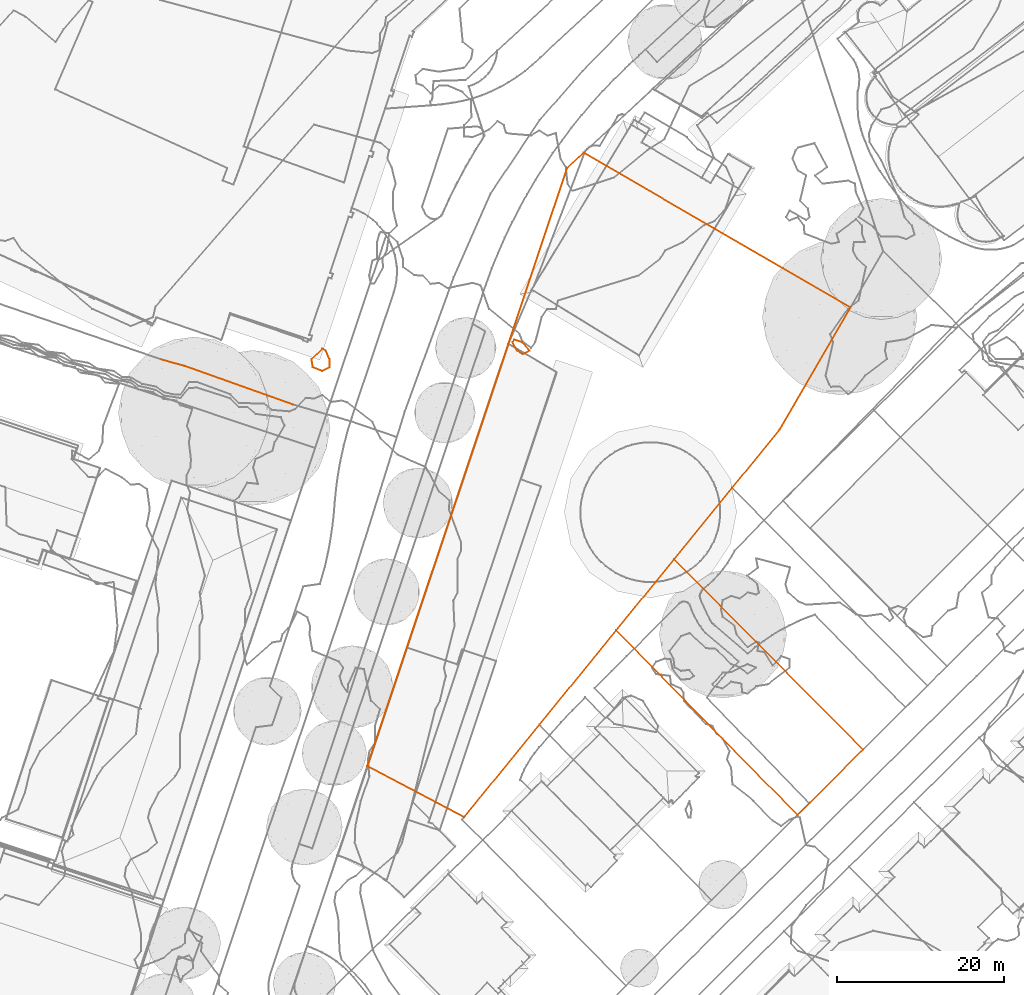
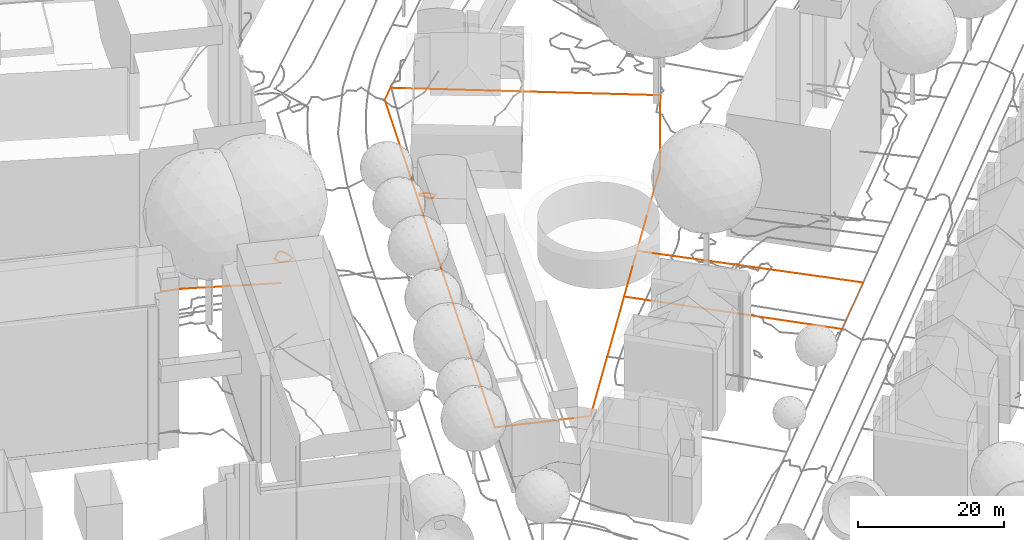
# Not in any storey, part 100 of 494: 6 proxies.
"""IFC2X3 model written with IfcOpenShell, lengths in metres."""

from ifc_helpers import new_model, entity, si_unit, frame, origin_with_axes, place, context, subcontext, project, element, save


model = new_model("IFC2X3")

# Units and contexts
model_context = context("Model", 3, precision=1e-05, world=origin_with_axes())
body_context = subcontext(model_context, "Body", "Model", "MODEL_VIEW")
ifc_project = project(units=[si_unit("AREAUNIT", "SQUARE_METRE"), si_unit("LENGTHUNIT", "METRE")], contexts=[model_context])

# Proxies
proxy_1_placement = place(None, frame((54.1807320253, 192.3257372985, 532.854), z_axis=(0.0, 0.0, 1.0), x_axis=(1.0, 0.0, 0.0)))
element("IfcBuildingElementProxy", 1, at=proxy_1_placement, Name="Road 155", ObjectType="NOTDEFINED", context=body_context, shape_type="GeometricCurveSet", body=[
    entity("IfcGeometricCurveSet", [entity("IfcPolyline", [entity("IfcCartesianPoint", [0.0, 0.0, 0.0]), entity("IfcCartesianPoint", [12.9640000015, -4.6299998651, -0.793])])]),
])
proxy_2_placement = place(None, frame((51.2697320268, 193.1197372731, 532.885), z_axis=(0.0, 0.0, 1.0), x_axis=(1.0, 0.0, 0.0)))
element("IfcBuildingElementProxy", 2, at=proxy_2_placement, Name="Road 156", ObjectType="NOTDEFINED", context=body_context, shape_type="GeometricCurveSet", body=[
    entity("IfcGeometricCurveSet", [entity("IfcPolyline", [entity("IfcCartesianPoint", [0.0, 0.0, 0.0]), entity("IfcCartesianPoint", [2.9109999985, -0.7939999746, -0.031])])]),
])
proxy_3_placement = place(None, frame((76.0587320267, 144.3647160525, 531.0605458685), z_axis=(0.0, 0.0, 1.0), x_axis=(1.0, 0.0, 0.0)))
element("IfcBuildingElementProxy", 3, at=proxy_3_placement, Name="Cadastre 89", ObjectType="NOTDEFINED", context=body_context, shape_type="GeometricCurveSet", body=[
    entity("IfcGeometricCurveSet", [entity("IfcPolyline", [entity("IfcCartesianPoint", [0.0, 0.0, 0.0]), entity("IfcCartesianPoint", [23.9619999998, 71.7019999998, 2.9849385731]), entity("IfcCartesianPoint", [25.9300000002, 73.5199999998, 3.1794816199]), entity("IfcCartesianPoint", [57.9160000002, 54.9519999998, 1.9941676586]), entity("IfcCartesianPoint", [49.4360000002, 40.348, 1.5693953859]), entity("IfcCartesianPoint", [43.7459999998, 33.3559999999, 1.5828651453]), entity("IfcCartesianPoint", [36.7960000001, 24.8139999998, 1.6217931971]), entity("IfcCartesianPoint", [29.8560000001, 16.291, 1.5617126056]), entity("IfcCartesianPoint", [20.6359999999, 4.9679999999, 1.5827499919]), entity("IfcCartesianPoint", [11.6069999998, -6.125, 1.5508897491]), entity("IfcCartesianPoint", [0.0, 0.0, 0.0])])]),
])
proxy_4_placement = place(None, frame((105.9147320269, 160.6557160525, 532.6222584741), z_axis=(0.0, 0.0, 1.0), x_axis=(1.0, 0.0, 0.0)))
element("IfcBuildingElementProxy", 4, at=proxy_4_placement, Name="Cadastre 97", ObjectType="NOTDEFINED", context=body_context, shape_type="GeometricCurveSet", body=[
    entity("IfcGeometricCurveSet", [entity("IfcPolyline", [entity("IfcCartesianPoint", [0.0, 0.0, 0.0]), entity("IfcCartesianPoint", [6.9399999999, 8.5229999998, 0.0600805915]), entity("IfcCartesianPoint", [29.605, -14.2880000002, 0.654844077]), entity("IfcCartesianPoint", [21.7249999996, -22.1300000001, 0.3821062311]), entity("IfcCartesianPoint", [0.0, 0.0, 0.0])])]),
])
proxy_5_placement = place(None, frame((93.460152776, 195.1707160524, 533.0), z_axis=(0.0, 0.0, 1.0), x_axis=(1.0, 0.0, 0.0)))
element("IfcBuildingElementProxy", 5, at=proxy_5_placement, Name="Contour Line 533.0 m", ObjectType="NOTDEFINED", context=body_context, shape_type="GeometricCurveSet", body=[
    entity("IfcGeometricCurveSet", [entity("IfcPolyline", [entity("IfcCartesianPoint", [2.0553968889, -1.0, 0.0]), entity("IfcCartesianPoint", [1.2175792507, -1.4387475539, 0.0]), entity("IfcCartesianPoint", [0.5566122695, -1.0, 0.0]), entity("IfcCartesianPoint", [0.0, 0.0, 0.0]), entity("IfcCartesianPoint", [0.2175792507, 0.3044354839, 0.0]), entity("IfcCartesianPoint", [1.2175792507, -0.0201048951, 0.0]), entity("IfcCartesianPoint", [2.0553968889, -1.0, 0.0])])]),
])
proxy_6_placement = place(None, frame((69.3824279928, 193.1707160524, 532.0), z_axis=(0.0, 0.0, 1.0), x_axis=(1.0, 0.0, 0.0)))
element("IfcBuildingElementProxy", 6, at=proxy_6_placement, Name="Contour Line 532.0 m", ObjectType="NOTDEFINED", context=body_context, shape_type="GeometricCurveSet", body=[
    entity("IfcGeometricCurveSet", [entity("IfcPolyline", [entity("IfcCartesianPoint", [1.2953040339, -1.4605597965, 0.0]), entity("IfcCartesianPoint", [2.1572087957, -1.0, 0.0]), entity("IfcCartesianPoint", [2.1419797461, 0.0, 0.0]), entity("IfcCartesianPoint", [1.7153172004, 1.0, 0.0]), entity("IfcCartesianPoint", [1.2953040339, 1.2100065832, 0.0]), entity("IfcCartesianPoint", [0.0, 0.0, 0.0]), entity("IfcCartesianPoint", [0.1469360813, -1.0, 0.0]), entity("IfcCartesianPoint", [1.2953040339, -1.4605597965, 0.0])])]),
])

save(model, "model.ifc")
